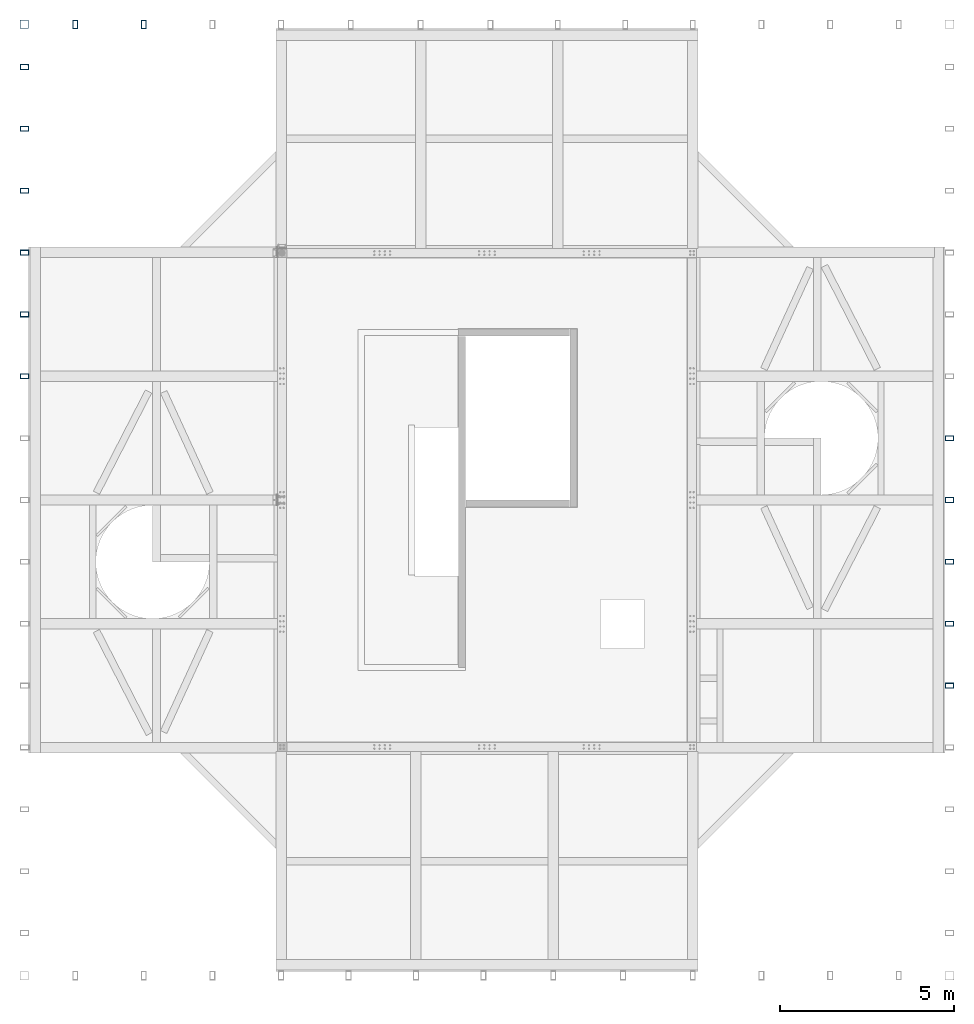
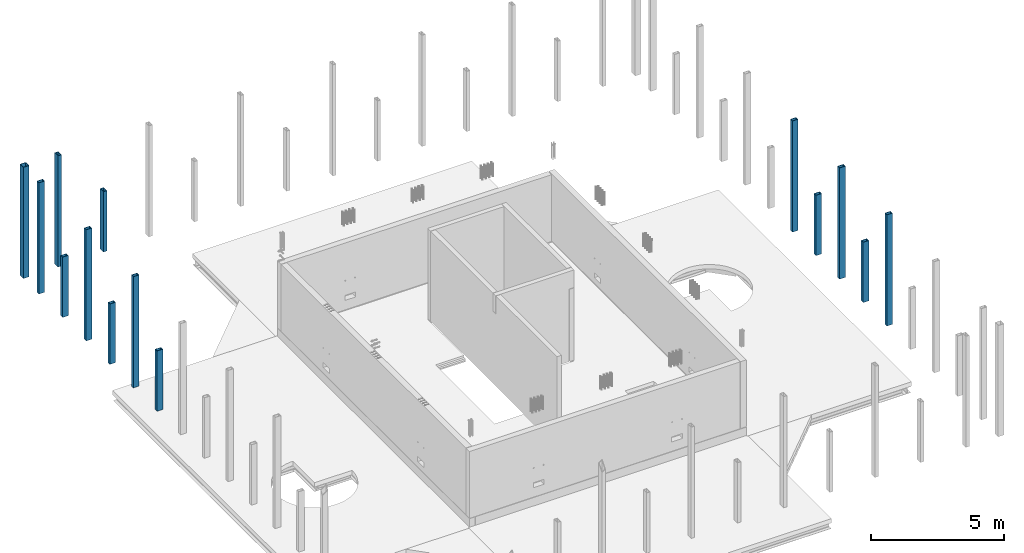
# One storey, part 3 of 16: 14 columns.
"""IFC2X3 building model written with IfcOpenShell, lengths in millimetres."""

from ifc_helpers import new_model, entity, si_unit, converted_unit, derived_unit, direction, frame, frame_2d, origin, place, context, subcontext, project, spatial, polyline, circle_curve, parameter, trimmed, segment, composite_curve, outline, extrude, source, transform, mapped, material, type_object, type_shapes, element, save


model = new_model("IFC2X3")

# Units and contexts
model_context = context("Model", 3, precision=0.01, world=origin(), true_north=direction((6.12303176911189e-17, 1.0)))
body_context = subcontext(model_context, "Body", "Model", "MODEL_VIEW")
ifc_project = project(units=[si_unit("LENGTHUNIT", "METRE", prefix="MILLI"), si_unit("AREAUNIT", "SQUARE_METRE"), si_unit("VOLUMEUNIT", "CUBIC_METRE"), converted_unit("PLANEANGLEUNIT", "DEGREE", entity("IfcRatioMeasure", 0.0174532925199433), si_unit("PLANEANGLEUNIT", "RADIAN"), dimensions=[0, 0, 0, 0, 0, 0, 0]), si_unit("MASSUNIT", "GRAM", prefix="KILO"), derived_unit("MASSDENSITYUNIT", [(si_unit("MASSUNIT", "GRAM", prefix="KILO"), 1), (si_unit("LENGTHUNIT", "METRE"), -3)]), si_unit("TIMEUNIT", "SECOND"), si_unit("FREQUENCYUNIT", "HERTZ"), si_unit("THERMODYNAMICTEMPERATUREUNIT", "DEGREE_CELSIUS"), derived_unit("THERMALTRANSMITTANCEUNIT", [(si_unit("MASSUNIT", "GRAM", prefix="KILO"), 1), (si_unit("THERMODYNAMICTEMPERATUREUNIT", "KELVIN"), -1), (si_unit("TIMEUNIT", "SECOND"), -3)]), derived_unit("VOLUMETRICFLOWRATEUNIT", [(si_unit("LENGTHUNIT", "METRE"), 3), (si_unit("TIMEUNIT", "SECOND"), -1)]), si_unit("ELECTRICCURRENTUNIT", "AMPERE"), si_unit("ELECTRICVOLTAGEUNIT", "VOLT"), si_unit("POWERUNIT", "WATT"), si_unit("FORCEUNIT", "NEWTON", prefix="KILO"), si_unit("ILLUMINANCEUNIT", "LUX"), si_unit("LUMINOUSFLUXUNIT", "LUMEN"), si_unit("LUMINOUSINTENSITYUNIT", "CANDELA"), derived_unit("USERDEFINED", [(si_unit("MASSUNIT", "GRAM", prefix="KILO"), -1), (si_unit("LENGTHUNIT", "METRE"), -2), (si_unit("TIMEUNIT", "SECOND"), 3), (si_unit("LUMINOUSFLUXUNIT", "LUMEN"), 1)]), derived_unit("LINEARVELOCITYUNIT", [(si_unit("LENGTHUNIT", "METRE"), 1), (si_unit("TIMEUNIT", "SECOND"), -1)]), si_unit("PRESSUREUNIT", "PASCAL"), derived_unit("USERDEFINED", [(si_unit("LENGTHUNIT", "METRE"), -2), (si_unit("MASSUNIT", "GRAM", prefix="KILO"), 1), (si_unit("TIMEUNIT", "SECOND"), -2)])], contexts=[model_context])

# Site, building, storey
site_placement = place(None, origin())
site = spatial("IfcSite", under=ifc_project, at=site_placement, Name="Default", CompositionType="ELEMENT")
building_placement = place(site_placement, origin())
building = spatial("IfcBuilding", under=site, at=building_placement, Name="niet gebruiken", CompositionType="ELEMENT")
storey_placement = place(building_placement, frame((0.0, 0.0, 183150.0)))
storey = spatial("IfcBuildingStorey", under=building, at=storey_placement, Name="58 achtenvijftigste verdieping", CompositionType="ELEMENT", Elevation=183150.0)

# Columns
ifc_material = material(Name="NLRS_h2_staal")
column_type_1 = type_object("IfcColumnType", Name="kolom buisprofiel rechthoekig RHSH_250x150x16", PredefinedType="COLUMN", material=ifc_material)
shared_shape_1 = source(origin(), body_context, "Body", "SweptSolid", [
    extrude(outline(polyline([(-125.0, -75.0), (125.0, -75.0), (125.0, 75.0), (-125.0, 75.0), (-125.0, -75.0)]), holes=[composite_curve([segment(trimmed(circle_curve(frame_2d((-96.5, -46.5), x_axis=(0.0, 1.0)), 12.5), [parameter(90.0)], [parameter(180.0)], True, "PARAMETER"), False, "CONTINUOUS"), segment(polyline([(-109.0, -46.5), (-109.0, 46.5)]), True, "CONTINUOUS"), segment(trimmed(circle_curve(frame_2d((-96.5, 46.5), x_axis=(0.0, 1.0)), 12.5), [parameter(360.0)], [parameter(89.9999999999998)], True, "PARAMETER"), False, "CONTINUOUS"), segment(polyline([(-96.4999999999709, 59.0), (96.5000000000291, 59.0)]), True, "CONTINUOUS"), segment(trimmed(circle_curve(frame_2d((96.5000000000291, 46.5), x_axis=(0.0, 1.0)), 12.5), [parameter(270.0)], [parameter(360.0)], True, "PARAMETER"), False, "CONTINUOUS"), segment(polyline([(109.0, 46.5), (109.0, -46.5)]), True, "CONTINUOUS"), segment(trimmed(circle_curve(frame_2d((96.5000000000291, -46.5), x_axis=(0.0, 1.0)), 12.5), [parameter(180.0)], [parameter(270.0)], True, "PARAMETER"), False, "CONTINUOUS"), segment(polyline([(96.5000000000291, -59.0), (-96.4999999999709, -59.0)]), True, "CONTINUOUS")], self_intersect=False)]), frame((155005.0, 12182.4999999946, 184200.0)), (0.0, 0.0, 1.0), 5089.99999999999),
])
type_shapes(column_type_1, [shared_shape_1])
column_1_placement = place(storey_placement, frame((0.0, 0.0, -183150.0)))
element("IfcColumn", 1, at=column_1_placement, inside=storey, type_object=column_type_1, material=ifc_material, Name="NLRS_28.11_SCO_TLB_stalen kolom buisprofiel rechthoekig_gen:kolom buisprofiel rechthoekig RHSH_250x150x16", ObjectType="kolom buisprofiel rechthoekig RHSH_250x150x16", context=body_context, shape_type="MappedRepresentation", body=[
    mapped(shared_shape_1, transform((0.0, 0.0, 0.0), scale=1.0)),
])
column_type_2 = type_object("IfcColumnType", Name="kolom buisprofiel rechthoekig RHSH_250x150x16", PredefinedType="COLUMN", material=ifc_material)
shared_shape_2 = source(origin(), body_context, "Body", "SweptSolid", [
    extrude(outline(polyline([(-125.0, -75.0), (125.0, -75.0), (125.0, 75.0), (-125.0, 75.0), (-125.0, -75.0)]), holes=[composite_curve([segment(trimmed(circle_curve(frame_2d((-96.5, -46.5000000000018), x_axis=(0.0, 1.0)), 12.5), [parameter(90.0)], [parameter(180.0)], True, "PARAMETER"), False, "CONTINUOUS"), segment(polyline([(-109.0, -46.5000000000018), (-109.0, 46.5)]), True, "CONTINUOUS"), segment(trimmed(circle_curve(frame_2d((-96.5, 46.5), x_axis=(0.0, 1.0)), 12.5), [parameter(360.0)], [parameter(89.9999999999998)], True, "PARAMETER"), False, "CONTINUOUS"), segment(polyline([(-96.4999999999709, 59.0), (96.5000000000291, 59.0)]), True, "CONTINUOUS"), segment(trimmed(circle_curve(frame_2d((96.5000000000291, 46.5), x_axis=(0.0, 1.0)), 12.5), [parameter(270.0)], [parameter(360.0)], True, "PARAMETER"), False, "CONTINUOUS"), segment(polyline([(109.0, 46.5), (109.0, -46.5000000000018)]), True, "CONTINUOUS"), segment(trimmed(circle_curve(frame_2d((96.5000000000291, -46.5000000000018), x_axis=(0.0, 1.0)), 12.5), [parameter(180.0)], [parameter(270.0)], True, "PARAMETER"), False, "CONTINUOUS"), segment(polyline([(96.5000000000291, -59.0), (-96.4999999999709, -59.0)]), True, "CONTINUOUS")], self_intersect=False)]), frame((155005.0, 13955.0, 184200.0)), (0.0, 0.0, 1.0), 2760.0),
])
type_shapes(column_type_2, [shared_shape_2])
column_2_placement = place(storey_placement, frame((0.0, 0.0, -183150.0)))
element("IfcColumn", 2, at=column_2_placement, inside=storey, type_object=column_type_2, material=ifc_material, Name="NLRS_28.11_SCO_TLB_stalen kolom buisprofiel rechthoekig_gen:kolom buisprofiel rechthoekig RHSH_250x150x16", ObjectType="kolom buisprofiel rechthoekig RHSH_250x150x16", context=body_context, shape_type="MappedRepresentation", body=[
    mapped(shared_shape_2, transform((0.0, 0.0, 0.0), scale=1.0)),
])
column_type_3 = type_object("IfcColumnType", Name="kolom buisprofiel rechthoekig RHSH_250x150x16", PredefinedType="COLUMN", material=ifc_material)
shared_shape_3 = source(origin(), body_context, "Body", "SweptSolid", [
    extrude(outline(polyline([(-125.0, -75.0), (125.0, -75.0), (125.0, 75.0), (-125.0, 75.0), (-125.0, -75.0)]), holes=[composite_curve([segment(trimmed(circle_curve(frame_2d((-96.5, -46.5), x_axis=(0.0, 1.0)), 12.5), [parameter(90.0)], [parameter(180.0)], True, "PARAMETER"), False, "CONTINUOUS"), segment(polyline([(-109.0, -46.5), (-109.0, 46.5000000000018)]), True, "CONTINUOUS"), segment(trimmed(circle_curve(frame_2d((-96.5, 46.5000000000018), x_axis=(0.0, 1.0)), 12.5), [parameter(360.0)], [parameter(89.9999999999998)], True, "PARAMETER"), False, "CONTINUOUS"), segment(polyline([(-96.4999999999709, 59.0), (96.5000000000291, 59.0)]), True, "CONTINUOUS"), segment(trimmed(circle_curve(frame_2d((96.5000000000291, 46.5000000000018), x_axis=(0.0, 1.0)), 12.5), [parameter(270.0)], [parameter(360.0)], True, "PARAMETER"), False, "CONTINUOUS"), segment(polyline([(109.0, 46.5000000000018), (109.0, -46.5)]), True, "CONTINUOUS"), segment(trimmed(circle_curve(frame_2d((96.5000000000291, -46.5), x_axis=(0.0, 1.0)), 12.5), [parameter(180.0)], [parameter(270.0)], True, "PARAMETER"), False, "CONTINUOUS"), segment(polyline([(96.5000000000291, -59.0), (-96.4999999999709, -59.0)]), True, "CONTINUOUS")], self_intersect=False)]), frame((155005.0, 15727.4999999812, 184200.0)), (0.0, 0.0, 1.0), 5089.99999999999),
])
type_shapes(column_type_3, [shared_shape_3])
column_3_placement = place(storey_placement, frame((0.0, 0.0, -183150.0)))
element("IfcColumn", 3, at=column_3_placement, inside=storey, type_object=column_type_3, material=ifc_material, Name="NLRS_28.11_SCO_TLB_stalen kolom buisprofiel rechthoekig_gen:kolom buisprofiel rechthoekig RHSH_250x150x16", ObjectType="kolom buisprofiel rechthoekig RHSH_250x150x16", context=body_context, shape_type="MappedRepresentation", body=[
    mapped(shared_shape_3, transform((0.0, 0.0, 0.0), scale=1.0)),
])
column_type_4 = type_object("IfcColumnType", Name="kolom buisprofiel rechthoekig RHSH_250x150x16", PredefinedType="COLUMN", material=ifc_material)
shared_shape_4 = source(origin(), body_context, "Body", "SweptSolid", [
    extrude(outline(polyline([(-125.0, -75.0), (125.0, -75.0), (125.0, 75.0), (-125.0, 75.0), (-125.0, -75.0)]), holes=[composite_curve([segment(trimmed(circle_curve(frame_2d((-96.5, -46.5), x_axis=(0.0, 1.0)), 12.5), [parameter(90.0)], [parameter(180.0)], True, "PARAMETER"), False, "CONTINUOUS"), segment(polyline([(-109.0, -46.5), (-109.0, 46.5)]), True, "CONTINUOUS"), segment(trimmed(circle_curve(frame_2d((-96.5, 46.5), x_axis=(0.0, 1.0)), 12.5), [parameter(360.0)], [parameter(89.9999999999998)], True, "PARAMETER"), False, "CONTINUOUS"), segment(polyline([(-96.5, 59.0), (96.5, 59.0)]), True, "CONTINUOUS"), segment(trimmed(circle_curve(frame_2d((96.5, 46.5), x_axis=(0.0, 1.0)), 12.5), [parameter(270.0)], [parameter(360.0)], True, "PARAMETER"), False, "CONTINUOUS"), segment(polyline([(109.0, 46.5), (109.0, -46.5)]), True, "CONTINUOUS"), segment(trimmed(circle_curve(frame_2d((96.5, -46.5), x_axis=(0.0, 1.0)), 12.5), [parameter(180.0)], [parameter(270.0)], True, "PARAMETER"), False, "CONTINUOUS"), segment(polyline([(96.5, -59.0), (-96.5, -59.0)]), True, "CONTINUOUS")], self_intersect=False)]), frame((155005.0, 17500.0, 184200.0)), (0.0, 0.0, 1.0), 2760.0),
])
type_shapes(column_type_4, [shared_shape_4])
column_4_placement = place(storey_placement, frame((0.0, 0.0, -183150.0)))
element("IfcColumn", 4, at=column_4_placement, inside=storey, type_object=column_type_4, material=ifc_material, Name="NLRS_28.11_SCO_TLB_stalen kolom buisprofiel rechthoekig_gen:kolom buisprofiel rechthoekig RHSH_250x150x16", ObjectType="kolom buisprofiel rechthoekig RHSH_250x150x16", context=body_context, shape_type="MappedRepresentation", body=[
    mapped(shared_shape_4, transform((0.0, 0.0, 0.0), scale=1.0)),
])
column_type_5 = type_object("IfcColumnType", Name="kolom buisprofiel rechthoekig RHSH_250x150x16", PredefinedType="COLUMN", material=ifc_material)
shared_shape_5 = source(origin(), body_context, "Body", "SweptSolid", [
    extrude(outline(polyline([(-125.0, -75.0), (125.0, -75.0), (125.0, 75.0), (-125.0, 75.0), (-125.0, -75.0)]), holes=[composite_curve([segment(trimmed(circle_curve(frame_2d((-96.5, -46.5), x_axis=(0.0, 1.0)), 12.5), [parameter(90.0)], [parameter(180.0)], True, "PARAMETER"), False, "CONTINUOUS"), segment(polyline([(-109.0, -46.5), (-109.0, 46.5)]), True, "CONTINUOUS"), segment(trimmed(circle_curve(frame_2d((-96.5, 46.5), x_axis=(0.0, 1.0)), 12.5), [parameter(360.0)], [parameter(89.9999999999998)], True, "PARAMETER"), False, "CONTINUOUS"), segment(polyline([(-96.4999999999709, 59.0), (96.5000000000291, 59.0)]), True, "CONTINUOUS"), segment(trimmed(circle_curve(frame_2d((96.5000000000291, 46.5), x_axis=(0.0, 1.0)), 12.5), [parameter(270.0)], [parameter(360.0)], True, "PARAMETER"), False, "CONTINUOUS"), segment(polyline([(109.0, 46.5), (109.0, -46.5)]), True, "CONTINUOUS"), segment(trimmed(circle_curve(frame_2d((96.5000000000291, -46.5), x_axis=(0.0, 1.0)), 12.5), [parameter(180.0)], [parameter(270.0)], True, "PARAMETER"), False, "CONTINUOUS"), segment(polyline([(96.5000000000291, -59.0), (-96.4999999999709, -59.0)]), True, "CONTINUOUS")], self_intersect=False)]), frame((155005.0, 19272.4999999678, 184200.0)), (0.0, 0.0, 1.0), 5089.99999999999),
])
type_shapes(column_type_5, [shared_shape_5])
column_5_placement = place(storey_placement, frame((0.0, 0.0, -183150.0)))
element("IfcColumn", 5, at=column_5_placement, inside=storey, type_object=column_type_5, material=ifc_material, Name="NLRS_28.11_SCO_TLB_stalen kolom buisprofiel rechthoekig_gen:kolom buisprofiel rechthoekig RHSH_250x150x16", ObjectType="kolom buisprofiel rechthoekig RHSH_250x150x16", context=body_context, shape_type="MappedRepresentation", body=[
    mapped(shared_shape_5, transform((0.0, 0.0, 0.0), scale=1.0)),
])
column_type_6 = type_object("IfcColumnType", Name="kolom buisprofiel warmgevormd vierkant SHSH_250x250x16", PredefinedType="COLUMN", material=ifc_material)
shared_shape_6 = source(origin(), body_context, "Body", "SweptSolid", [
    extrude(outline(polyline([(-125.0, -125.0), (125.0, -125.0), (125.0, 125.0), (-125.0, 125.0), (-125.0, -125.0)]), holes=[composite_curve([segment(trimmed(circle_curve(frame_2d((-99.0, -99.0), x_axis=(0.0, 1.0)), 10.0), [parameter(90.0000000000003)], [parameter(180.0)], True, "PARAMETER"), False, "CONTINUOUS"), segment(polyline([(-109.0, -99.0), (-109.0, 99.0)]), True, "CONTINUOUS"), segment(trimmed(circle_curve(frame_2d((-99.0, 99.0), x_axis=(0.0, 1.0)), 10.0), [parameter(0.0)], [parameter(89.9999999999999)], True, "PARAMETER"), False, "CONTINUOUS"), segment(polyline([(-99.0, 109.0), (99.0, 109.0)]), True, "CONTINUOUS"), segment(trimmed(circle_curve(frame_2d((99.0, 99.0), x_axis=(0.0, 1.0)), 10.0), [parameter(270.0)], [parameter(360.0)], True, "PARAMETER"), False, "CONTINUOUS"), segment(polyline([(109.0, 99.0), (109.0, -99.0)]), True, "CONTINUOUS"), segment(trimmed(circle_curve(frame_2d((99.0, -99.0), x_axis=(0.0, 1.0)), 10.0), [parameter(180.0)], [parameter(270.0)], True, "PARAMETER"), False, "CONTINUOUS"), segment(polyline([(99.0, -109.0), (-99.0, -109.0)]), True, "CONTINUOUS")], self_intersect=False)]), frame((128495.0, 31130.0, 184200.0), z_axis=(0.0, 0.0, 1.0), x_axis=(0.0, -1.0, 0.0)), (0.0, 0.0, 1.0), 5089.99999999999),
])
type_shapes(column_type_6, [shared_shape_6])
column_6_placement = place(storey_placement, frame((0.0, 0.0, -183150.0)))
element("IfcColumn", 6, at=column_6_placement, inside=storey, type_object=column_type_6, material=ifc_material, Name="NLRS_28.11_SCO_TLB_stalen kolom buisprofiel warmgevormd vierkant_gen:kolom buisprofiel warmgevormd vierkant SHSH_250x250x16", ObjectType="kolom buisprofiel warmgevormd vierkant SHSH_250x250x16", context=body_context, shape_type="MappedRepresentation", body=[
    mapped(shared_shape_6, transform((0.0, 0.0, 0.0), scale=1.0)),
])
column_type_7 = type_object("IfcColumnType", Name="kolom buisprofiel rechthoekig RHSH_250x150x16", PredefinedType="COLUMN", material=ifc_material)
shared_shape_7 = source(origin(), body_context, "Body", "SweptSolid", [
    extrude(outline(polyline([(-125.0, -75.0), (125.0, -75.0), (125.0, 75.0), (-125.0, 75.0), (-125.0, -75.0)]), holes=[composite_curve([segment(trimmed(circle_curve(frame_2d((-96.5000000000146, -46.5000000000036), x_axis=(0.0, 1.0)), 12.5), [parameter(90.0)], [parameter(180.0)], True, "PARAMETER"), False, "CONTINUOUS"), segment(polyline([(-109.0, -46.5), (-109.0, 46.4999999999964)]), True, "CONTINUOUS"), segment(trimmed(circle_curve(frame_2d((-96.5000000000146, 46.4999999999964), x_axis=(0.0, 1.0)), 12.5), [parameter(360.0)], [parameter(89.9999999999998)], True, "PARAMETER"), False, "CONTINUOUS"), segment(polyline([(-96.5, 59.0), (96.4999999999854, 59.0)]), True, "CONTINUOUS"), segment(trimmed(circle_curve(frame_2d((96.4999999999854, 46.4999999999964), x_axis=(0.0, 1.0)), 12.5), [parameter(270.0)], [parameter(360.0)], True, "PARAMETER"), False, "CONTINUOUS"), segment(polyline([(109.0, 46.4999999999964), (109.0, -46.5)]), True, "CONTINUOUS"), segment(trimmed(circle_curve(frame_2d((96.4999999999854, -46.5000000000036), x_axis=(0.0, 1.0)), 12.5), [parameter(180.0)], [parameter(270.0)], True, "PARAMETER"), False, "CONTINUOUS"), segment(polyline([(96.4999999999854, -59.0), (-96.5, -59.0)]), True, "CONTINUOUS")], self_intersect=False)]), frame((128495.0, 29907.5000000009, 184200.0)), (0.0, 0.0, 1.0), 5089.99999999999),
])
type_shapes(column_type_7, [shared_shape_7])
column_7_placement = place(storey_placement, frame((0.0, 0.0, -183150.0)))
element("IfcColumn", 7, at=column_7_placement, inside=storey, type_object=column_type_7, material=ifc_material, Name="NLRS_28.11_SCO_TLB_stalen kolom buisprofiel rechthoekig_gen:kolom buisprofiel rechthoekig RHSH_250x150x16", ObjectType="kolom buisprofiel rechthoekig RHSH_250x150x16", context=body_context, shape_type="MappedRepresentation", body=[
    mapped(shared_shape_7, transform((0.0, 0.0, 0.0), scale=1.0)),
])
column_type_8 = type_object("IfcColumnType", Name="kolom buisprofiel rechthoekig RHSH_250x150x16", PredefinedType="COLUMN", material=ifc_material)
shared_shape_8 = source(origin(), body_context, "Body", "SweptSolid", [
    extrude(outline(polyline([(-125.0, -75.0), (125.0, -75.0), (125.0, 75.0), (-125.0, 75.0), (-125.0, -75.0)]), holes=[composite_curve([segment(trimmed(circle_curve(frame_2d((-96.5000000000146, -46.5000000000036), x_axis=(0.0, 1.0)), 12.5), [parameter(90.0)], [parameter(180.0)], True, "PARAMETER"), False, "CONTINUOUS"), segment(polyline([(-109.0, -46.4999999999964), (-109.0, 46.5)]), True, "CONTINUOUS"), segment(trimmed(circle_curve(frame_2d((-96.5000000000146, 46.5), x_axis=(0.0, 1.0)), 12.5), [parameter(360.0)], [parameter(89.9999999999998)], True, "PARAMETER"), False, "CONTINUOUS"), segment(polyline([(-96.5, 59.0), (96.4999999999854, 59.0)]), True, "CONTINUOUS"), segment(trimmed(circle_curve(frame_2d((96.4999999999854, 46.5), x_axis=(0.0, 1.0)), 12.5), [parameter(270.0)], [parameter(360.0)], True, "PARAMETER"), False, "CONTINUOUS"), segment(polyline([(109.0, 46.5), (109.0, -46.4999999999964)]), True, "CONTINUOUS"), segment(trimmed(circle_curve(frame_2d((96.4999999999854, -46.5000000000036), x_axis=(0.0, 1.0)), 12.5), [parameter(180.0)], [parameter(270.0)], True, "PARAMETER"), False, "CONTINUOUS"), segment(polyline([(96.4999999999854, -59.0), (-96.5, -59.0)]), True, "CONTINUOUS")], self_intersect=False)]), frame((128495.0, 28135.0, 184200.0)), (0.0, 0.0, 1.0), 2760.0),
])
type_shapes(column_type_8, [shared_shape_8])
column_8_placement = place(storey_placement, frame((0.0, 0.0, -183150.0)))
element("IfcColumn", 8, at=column_8_placement, inside=storey, type_object=column_type_8, material=ifc_material, Name="NLRS_28.11_SCO_TLB_stalen kolom buisprofiel rechthoekig_gen:kolom buisprofiel rechthoekig RHSH_250x150x16", ObjectType="kolom buisprofiel rechthoekig RHSH_250x150x16", context=body_context, shape_type="MappedRepresentation", body=[
    mapped(shared_shape_8, transform((0.0, 0.0, 0.0), scale=1.0)),
])
column_type_9 = type_object("IfcColumnType", Name="kolom buisprofiel rechthoekig RHSH_250x150x16", PredefinedType="COLUMN", material=ifc_material)
shared_shape_9 = source(origin(), body_context, "Body", "SweptSolid", [
    extrude(outline(polyline([(-125.0, -75.0), (125.0, -75.0), (125.0, 75.0), (-125.0, 75.0), (-125.0, -75.0)]), holes=[composite_curve([segment(trimmed(circle_curve(frame_2d((-96.5000000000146, -46.5000000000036), x_axis=(0.0, 1.0)), 12.5), [parameter(90.0)], [parameter(180.0)], True, "PARAMETER"), False, "CONTINUOUS"), segment(polyline([(-109.0, -46.4999999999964), (-109.0, 46.5)]), True, "CONTINUOUS"), segment(trimmed(circle_curve(frame_2d((-96.5000000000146, 46.5), x_axis=(0.0, 1.0)), 12.5), [parameter(360.0)], [parameter(89.9999999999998)], True, "PARAMETER"), False, "CONTINUOUS"), segment(polyline([(-96.5, 59.0), (96.4999999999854, 59.0)]), True, "CONTINUOUS"), segment(trimmed(circle_curve(frame_2d((96.4999999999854, 46.5), x_axis=(0.0, 1.0)), 12.5), [parameter(270.0)], [parameter(360.0)], True, "PARAMETER"), False, "CONTINUOUS"), segment(polyline([(109.0, 46.5), (109.0, -46.4999999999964)]), True, "CONTINUOUS"), segment(trimmed(circle_curve(frame_2d((96.4999999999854, -46.5000000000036), x_axis=(0.0, 1.0)), 12.5), [parameter(180.0)], [parameter(270.0)], True, "PARAMETER"), False, "CONTINUOUS"), segment(polyline([(96.4999999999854, -59.0), (-96.5, -59.0)]), True, "CONTINUOUS")], self_intersect=False)]), frame((128495.0, 26362.5000000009, 184200.0)), (0.0, 0.0, 1.0), 5089.99999999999),
])
type_shapes(column_type_9, [shared_shape_9])
column_9_placement = place(storey_placement, frame((0.0, 0.0, -183150.0)))
element("IfcColumn", 9, at=column_9_placement, inside=storey, type_object=column_type_9, material=ifc_material, Name="NLRS_28.11_SCO_TLB_stalen kolom buisprofiel rechthoekig_gen:kolom buisprofiel rechthoekig RHSH_250x150x16", ObjectType="kolom buisprofiel rechthoekig RHSH_250x150x16", context=body_context, shape_type="MappedRepresentation", body=[
    mapped(shared_shape_9, transform((0.0, 0.0, 0.0), scale=1.0)),
])
column_type_10 = type_object("IfcColumnType", Name="kolom buisprofiel rechthoekig RHSH_250x150x16", PredefinedType="COLUMN", material=ifc_material)
shared_shape_10 = source(origin(), body_context, "Body", "SweptSolid", [
    extrude(outline(polyline([(-125.0, -75.0), (125.0, -75.0), (125.0, 75.0), (-125.0, 75.0), (-125.0, -75.0)]), holes=[composite_curve([segment(trimmed(circle_curve(frame_2d((-96.5, -46.5000000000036), x_axis=(0.0, 1.0)), 12.5), [parameter(90.0)], [parameter(180.0)], True, "PARAMETER"), False, "CONTINUOUS"), segment(polyline([(-109.0, -46.4999999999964), (-109.0, 46.5)]), True, "CONTINUOUS"), segment(trimmed(circle_curve(frame_2d((-96.5, 46.5), x_axis=(0.0, 1.0)), 12.5), [parameter(360.0)], [parameter(89.9999999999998)], True, "PARAMETER"), False, "CONTINUOUS"), segment(polyline([(-96.4999999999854, 59.0), (96.5, 59.0)]), True, "CONTINUOUS"), segment(trimmed(circle_curve(frame_2d((96.5, 46.5), x_axis=(0.0, 1.0)), 12.5), [parameter(270.0)], [parameter(360.0)], True, "PARAMETER"), False, "CONTINUOUS"), segment(polyline([(109.0, 46.5), (109.0, -46.4999999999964)]), True, "CONTINUOUS"), segment(trimmed(circle_curve(frame_2d((96.5, -46.5000000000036), x_axis=(0.0, 1.0)), 12.5), [parameter(180.0)], [parameter(270.0)], True, "PARAMETER"), False, "CONTINUOUS"), segment(polyline([(96.5, -59.0), (-96.4999999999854, -59.0)]), True, "CONTINUOUS")], self_intersect=False)]), frame((128495.0, 24590.0, 184200.0)), (0.0, 0.0, 1.0), 2760.0),
])
type_shapes(column_type_10, [shared_shape_10])
column_10_placement = place(storey_placement, frame((0.0, 0.0, -183150.0)))
element("IfcColumn", 10, at=column_10_placement, inside=storey, type_object=column_type_10, material=ifc_material, Name="NLRS_28.11_SCO_TLB_stalen kolom buisprofiel rechthoekig_gen:kolom buisprofiel rechthoekig RHSH_250x150x16", ObjectType="kolom buisprofiel rechthoekig RHSH_250x150x16", context=body_context, shape_type="MappedRepresentation", body=[
    mapped(shared_shape_10, transform((0.0, 0.0, 0.0), scale=1.0)),
])
column_type_11 = type_object("IfcColumnType", Name="kolom buisprofiel rechthoekig RHSH_250x150x16", PredefinedType="COLUMN", material=ifc_material)
shared_shape_11 = source(origin(), body_context, "Body", "SweptSolid", [
    extrude(outline(polyline([(-125.0, -75.0), (125.0, -75.0), (125.0, 75.0), (-125.0, 75.0), (-125.0, -75.0)]), holes=[composite_curve([segment(trimmed(circle_curve(frame_2d((-96.5000000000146, -46.5), x_axis=(0.0, 1.0)), 12.5), [parameter(90.0)], [parameter(180.0)], True, "PARAMETER"), False, "CONTINUOUS"), segment(polyline([(-109.0, -46.4999999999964), (-109.0, 46.5)]), True, "CONTINUOUS"), segment(trimmed(circle_curve(frame_2d((-96.5000000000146, 46.5), x_axis=(0.0, 1.0)), 12.5), [parameter(360.0)], [parameter(89.9999999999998)], True, "PARAMETER"), False, "CONTINUOUS"), segment(polyline([(-96.5, 59.0), (96.4999999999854, 59.0)]), True, "CONTINUOUS"), segment(trimmed(circle_curve(frame_2d((96.4999999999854, 46.5), x_axis=(0.0, 1.0)), 12.5), [parameter(270.0)], [parameter(360.0)], True, "PARAMETER"), False, "CONTINUOUS"), segment(polyline([(109.0, 46.5), (109.0, -46.4999999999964)]), True, "CONTINUOUS"), segment(trimmed(circle_curve(frame_2d((96.4999999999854, -46.5), x_axis=(0.0, 1.0)), 12.5), [parameter(180.0)], [parameter(270.0)], True, "PARAMETER"), False, "CONTINUOUS"), segment(polyline([(96.4999999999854, -59.0), (-96.5, -59.0)]), True, "CONTINUOUS")], self_intersect=False)]), frame((128495.0, 22817.5000000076, 184200.0)), (0.0, 0.0, 1.0), 5089.99999999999),
])
type_shapes(column_type_11, [shared_shape_11])
column_11_placement = place(storey_placement, frame((0.0, 0.0, -183150.0)))
element("IfcColumn", 11, at=column_11_placement, inside=storey, type_object=column_type_11, material=ifc_material, Name="NLRS_28.11_SCO_TLB_stalen kolom buisprofiel rechthoekig_gen:kolom buisprofiel rechthoekig RHSH_250x150x16", ObjectType="kolom buisprofiel rechthoekig RHSH_250x150x16", context=body_context, shape_type="MappedRepresentation", body=[
    mapped(shared_shape_11, transform((0.0, 0.0, 0.0), scale=1.0)),
])
column_type_12 = type_object("IfcColumnType", Name="kolom buisprofiel rechthoekig RHSH_250x150x16", PredefinedType="COLUMN", material=ifc_material)
shared_shape_12 = source(origin(), body_context, "Body", "SweptSolid", [
    extrude(outline(polyline([(-125.0, -75.0), (125.0, -75.0), (125.0, 75.0), (-125.0, 75.0), (-125.0, -75.0)]), holes=[composite_curve([segment(trimmed(circle_curve(frame_2d((-96.5000000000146, -46.5000000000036), x_axis=(0.0, 1.0)), 12.5), [parameter(90.0)], [parameter(180.0)], True, "PARAMETER"), False, "CONTINUOUS"), segment(polyline([(-109.0, -46.4999999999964), (-109.0, 46.5)]), True, "CONTINUOUS"), segment(trimmed(circle_curve(frame_2d((-96.5000000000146, 46.5), x_axis=(0.0, 1.0)), 12.5), [parameter(360.0)], [parameter(89.9999999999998)], True, "PARAMETER"), False, "CONTINUOUS"), segment(polyline([(-96.5, 59.0), (96.4999999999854, 59.0)]), True, "CONTINUOUS"), segment(trimmed(circle_curve(frame_2d((96.4999999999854, 46.5), x_axis=(0.0, 1.0)), 12.5), [parameter(270.0)], [parameter(360.0)], True, "PARAMETER"), False, "CONTINUOUS"), segment(polyline([(109.0, 46.5), (109.0, -46.4999999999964)]), True, "CONTINUOUS"), segment(trimmed(circle_curve(frame_2d((96.4999999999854, -46.5000000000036), x_axis=(0.0, 1.0)), 12.5), [parameter(180.0)], [parameter(270.0)], True, "PARAMETER"), False, "CONTINUOUS"), segment(polyline([(96.4999999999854, -59.0), (-96.5, -59.0)]), True, "CONTINUOUS")], self_intersect=False)]), frame((128495.0, 21045.0, 184200.0)), (0.0, 0.0, 1.0), 2760.0),
])
type_shapes(column_type_12, [shared_shape_12])
column_12_placement = place(storey_placement, frame((0.0, 0.0, -183150.0)))
element("IfcColumn", 12, at=column_12_placement, inside=storey, type_object=column_type_12, material=ifc_material, Name="NLRS_28.11_SCO_TLB_stalen kolom buisprofiel rechthoekig_gen:kolom buisprofiel rechthoekig RHSH_250x150x16", ObjectType="kolom buisprofiel rechthoekig RHSH_250x150x16", context=body_context, shape_type="MappedRepresentation", body=[
    mapped(shared_shape_12, transform((0.0, 0.0, 0.0), scale=1.0)),
])
column_type_13 = type_object("IfcColumnType", Name="kolom buisprofiel rechthoekig RHSH_250x150x16", PredefinedType="COLUMN", material=ifc_material)
shared_shape_13 = source(origin(), body_context, "Body", "SweptSolid", [
    extrude(outline(polyline([(-125.0, -75.0), (125.0, -75.0), (125.0, 75.0), (-125.0, 75.0), (-125.0, -75.0)]), holes=[composite_curve([segment(trimmed(circle_curve(frame_2d((-96.5000000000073, -46.4999999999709), x_axis=(0.0, 1.0)), 12.5), [parameter(90.0)], [parameter(180.0)], True, "PARAMETER"), False, "CONTINUOUS"), segment(polyline([(-109.0, -46.4999999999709), (-109.0, 46.5)]), True, "CONTINUOUS"), segment(trimmed(circle_curve(frame_2d((-96.5000000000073, 46.5), x_axis=(0.0, 1.0)), 12.5), [parameter(360.0)], [parameter(89.9999999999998)], True, "PARAMETER"), False, "CONTINUOUS"), segment(polyline([(-96.5000000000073, 59.0), (96.4999999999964, 59.0)]), True, "CONTINUOUS"), segment(trimmed(circle_curve(frame_2d((96.4999999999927, 46.5), x_axis=(0.0, 1.0)), 12.5), [parameter(270.0)], [parameter(360.0)], True, "PARAMETER"), False, "CONTINUOUS"), segment(polyline([(109.0, 46.5), (109.0, -46.4999999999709)]), True, "CONTINUOUS"), segment(trimmed(circle_curve(frame_2d((96.4999999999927, -46.4999999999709), x_axis=(0.0, 1.0)), 12.5), [parameter(180.0)], [parameter(270.0)], True, "PARAMETER"), False, "CONTINUOUS"), segment(polyline([(96.4999999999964, -59.0), (-96.5000000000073, -59.0)]), True, "CONTINUOUS")], self_intersect=False)]), frame((131916.666666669, 31130.0, 184200.0), z_axis=(0.0, 0.0, 1.0), x_axis=(0.0, -1.0, 0.0)), (0.0, 0.0, 1.0), 2760.0),
])
type_shapes(column_type_13, [shared_shape_13])
column_13_placement = place(storey_placement, frame((0.0, 0.0, -183150.0)))
element("IfcColumn", 13, at=column_13_placement, inside=storey, type_object=column_type_13, material=ifc_material, Name="NLRS_28.11_SCO_TLB_stalen kolom buisprofiel rechthoekig_gen:kolom buisprofiel rechthoekig RHSH_250x150x16", ObjectType="kolom buisprofiel rechthoekig RHSH_250x150x16", context=body_context, shape_type="MappedRepresentation", body=[
    mapped(shared_shape_13, transform((0.0, 0.0, 0.0), scale=1.0)),
])
column_type_14 = type_object("IfcColumnType", Name="kolom buisprofiel rechthoekig RHSH_250x150x16", PredefinedType="COLUMN", material=ifc_material)
shared_shape_14 = source(origin(), body_context, "Body", "SweptSolid", [
    extrude(outline(polyline([(-125.0, -75.0), (125.0, -75.0), (125.0, 75.0), (-125.0, 75.0), (-125.0, -75.0)]), holes=[composite_curve([segment(trimmed(circle_curve(frame_2d((-96.5, -46.5), x_axis=(0.0, 1.0)), 12.5), [parameter(90.0)], [parameter(180.0)], True, "PARAMETER"), False, "CONTINUOUS"), segment(polyline([(-109.0, -46.5), (-109.0, 46.5)]), True, "CONTINUOUS"), segment(trimmed(circle_curve(frame_2d((-96.5, 46.5), x_axis=(0.0, 1.0)), 12.5), [parameter(360.0)], [parameter(89.9999999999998)], True, "PARAMETER"), False, "CONTINUOUS"), segment(polyline([(-96.5, 59.0), (96.5000000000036, 59.0)]), True, "CONTINUOUS"), segment(trimmed(circle_curve(frame_2d((96.5, 46.5), x_axis=(0.0, 1.0)), 12.5), [parameter(270.0)], [parameter(360.0)], True, "PARAMETER"), False, "CONTINUOUS"), segment(polyline([(109.0, 46.5), (109.0, -46.5)]), True, "CONTINUOUS"), segment(trimmed(circle_curve(frame_2d((96.5, -46.5), x_axis=(0.0, 1.0)), 12.5), [parameter(180.0)], [parameter(270.0)], True, "PARAMETER"), False, "CONTINUOUS"), segment(polyline([(96.5000000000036, -59.0), (-96.5, -59.0)]), True, "CONTINUOUS")], self_intersect=False)]), frame((129950.0, 31130.0, 184200.0), z_axis=(0.0, 0.0, 1.0), x_axis=(0.0, -1.0, 0.0)), (0.0, 0.0, 1.0), 5089.99999999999),
])
type_shapes(column_type_14, [shared_shape_14])
column_14_placement = place(storey_placement, frame((0.0, 0.0, -183150.0)))
element("IfcColumn", 14, at=column_14_placement, inside=storey, type_object=column_type_14, material=ifc_material, Name="NLRS_28.11_SCO_TLB_stalen kolom buisprofiel rechthoekig_gen:kolom buisprofiel rechthoekig RHSH_250x150x16", ObjectType="kolom buisprofiel rechthoekig RHSH_250x150x16", context=body_context, shape_type="MappedRepresentation", body=[
    mapped(shared_shape_14, transform((0.0, 0.0, 0.0), scale=1.0)),
])

save(model, "model.ifc")
